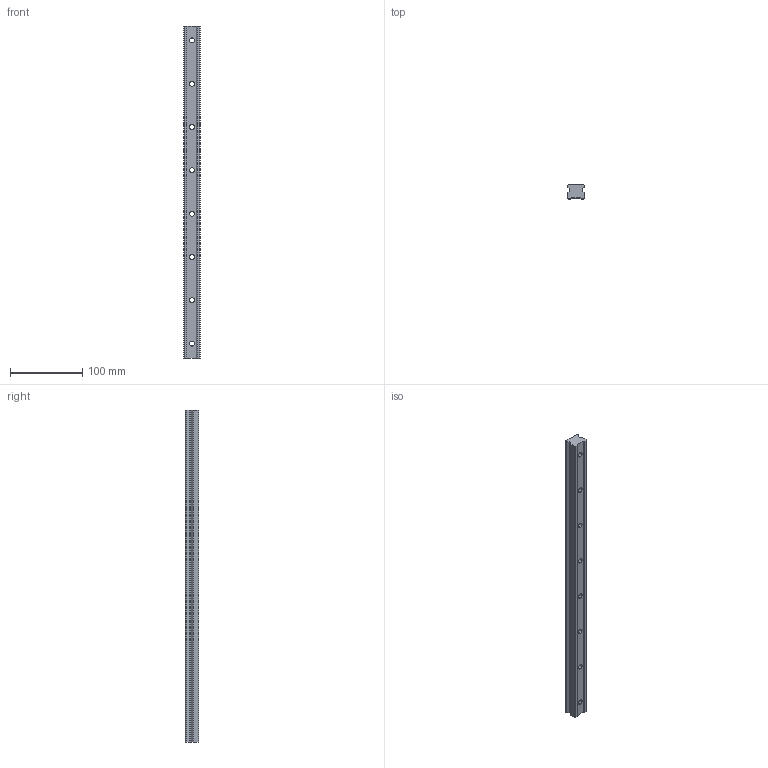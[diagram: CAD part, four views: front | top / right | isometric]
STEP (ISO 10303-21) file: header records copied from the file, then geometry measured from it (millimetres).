
FILE_DESCRIPTION (( 'STEP AP203' ), '1' );
FILE_NAME ('L1016.BL25-0460.step', '2019-06-12T12:04:47', ( '' ), ( '' ), 'SwSTEP 2.0', 'SolidWorks 2017', '' );
FILE_SCHEMA (( 'CONFIG_CONTROL_DESIGN' ));
Length unit declared in the file: millimetre
Products named in the file (1): L1016.BL25-0460
Bounding box: 23 x 19.2 x 460 mm (x, y, z)
Volume: 169178.4 mm3; surface area: 44301.3 mm2
Topology: 1 solids, 1 shells, 66 faces, 168 edges, 112 vertices
Faces by surface type: cylinder 36, plane 30
Entity records: 2133 total; most frequent: DIRECTION 374, CARTESIAN_POINT 347, ORIENTED_EDGE 336, EDGE_CURVE 168, AXIS2_PLACEMENT_3D 139, VERTEX_POINT 112, LINE 96, VECTOR 96
